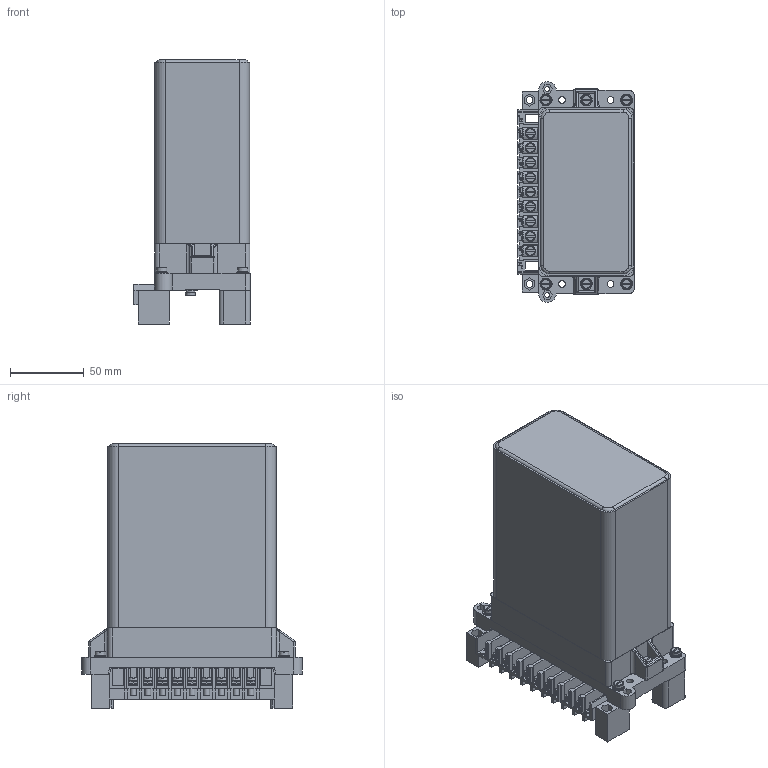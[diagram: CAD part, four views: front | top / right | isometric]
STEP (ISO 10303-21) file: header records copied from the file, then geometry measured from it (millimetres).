
FILE_DESCRIPTION(('STEP AP214'), '1');
FILE_NAME('ÐÂ-03', '', ('UNSPECIFIED'), ('UNSPECIFIED'), 'ASCON STEP Converter 1.3', 'ASCON Math Kernel', '');
FILE_SCHEMA(('AUTOMOTIVE_DESIGN { 1 0 10303 214 3 1 1}'));
Length unit declared in the file: millimetre
Bounding box: 79 x 150 x 179.5 mm (x, y, z)
Volume: 1168992.6 mm3; surface area: 130528.1 mm2
Topology: 10 solids, 10 shells, 6651 faces, 16420 edges, 9879 vertices
Faces by surface type: plane 5090, extrusion 1233, cylinder 214, torus 73, cone 29, bspline 12
Full cylindrical faces by diameter (mm): 3.2 x9, 3.5 x2, 4 x23, 4.3 x4, 4.5 x25, 5 x2, 5.2 x9, 8 x6, 10 x2
Entity records: 249188 total; most frequent: CARTESIAN_POINT 46047, ORIENTED_EDGE 32496, DIRECTION 26177, EDGE_CURVE 16248, VECTOR 13989, LINE 12756, VERTEX_POINT 9870, EDGE_LOOP 7134
